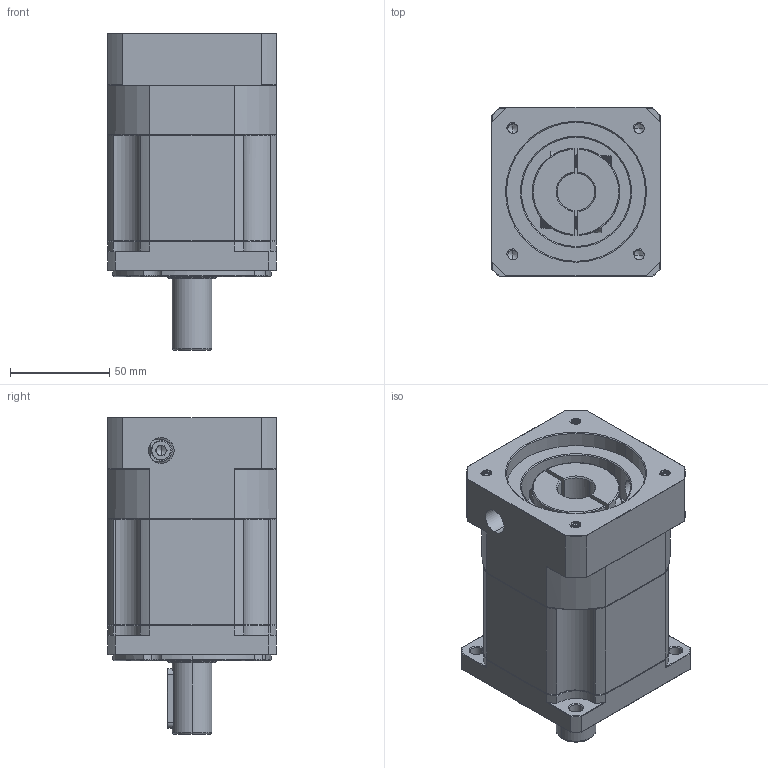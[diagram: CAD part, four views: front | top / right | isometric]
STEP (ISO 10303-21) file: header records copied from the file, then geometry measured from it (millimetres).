
FILE_DESCRIPTION (( 'STEP AP214' ), '1' );
FILE_NAME ('ZB90-D20-L2-19-70-90-M6.STEP', '2022-05-02T15:46:43', ( '' ), ( 'Microsoft' ), 'SwSTEP 2.0', 'SolidWorks 2016', '' );
FILE_SCHEMA (( 'AUTOMOTIVE_DESIGN' ));
Length unit declared in the file: millimetre
Products named in the file (1): ZB90-D20-L2-19-70-90-M6
Bounding box: 85 x 85 x 159.5 mm (x, y, z)
Volume: 729160.6 mm3; surface area: 90718.9 mm2
Topology: 4 solids, 4 shells, 1911 faces, 5026 edges, 3192 vertices
Faces by surface type: plane 876, cylinder 390, cone 319, bspline 314, torus 12
Entity records: 103949 total; most frequent: CARTESIAN_POINT 38572, ORIENTED_EDGE 10008, DIRECTION 8025, EDGE_CURVE 5004, VERTEX_POINT 3192, LINE 3083, VECTOR 3083, AXIS2_PLACEMENT_3D 2471
